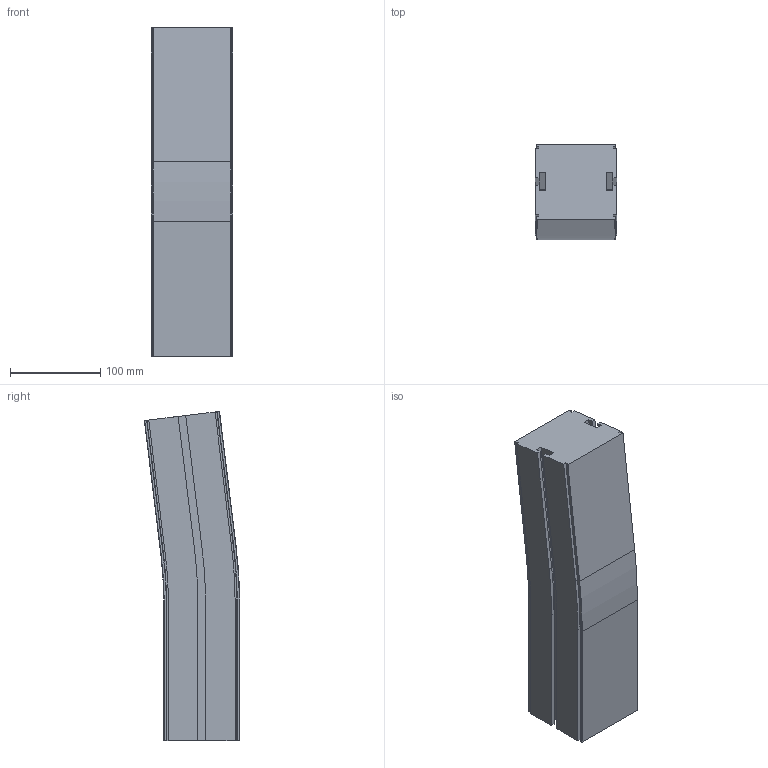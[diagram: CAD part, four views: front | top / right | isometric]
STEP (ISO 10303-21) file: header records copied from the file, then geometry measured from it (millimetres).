
FILE_DESCRIPTION (( 'STEP AP214' ), '1' );
FILE_NAME ('927758 CS090SL Verticale bochtsectie R500 7°.STEP', '2014-03-20T15:02:34', ( 'Beheerder' ), ( '' ), 'SwSTEP 2.0', 'SolidWorks 2012', '' );
FILE_SCHEMA (( 'AUTOMOTIVE_DESIGN' ));
Length unit declared in the file: millimetre
Products named in the file (1): 927758 CS090SL Verticale bochtsectie R500 7°
Bounding box: 90 x 105.69 x 364.94 mm (x, y, z)
Volume: 2583440.5 mm3; surface area: 178228 mm2
Topology: 1 solids, 1 shells, 98 faces, 272 edges, 176 vertices
Faces by surface type: plane 72, cylinder 18, cone 8
Entity records: 3126 total; most frequent: CARTESIAN_POINT 547, ORIENTED_EDGE 544, DIRECTION 514, EDGE_CURVE 272, VECTOR 228, LINE 228, VERTEX_POINT 176, AXIS2_PLACEMENT_3D 143
